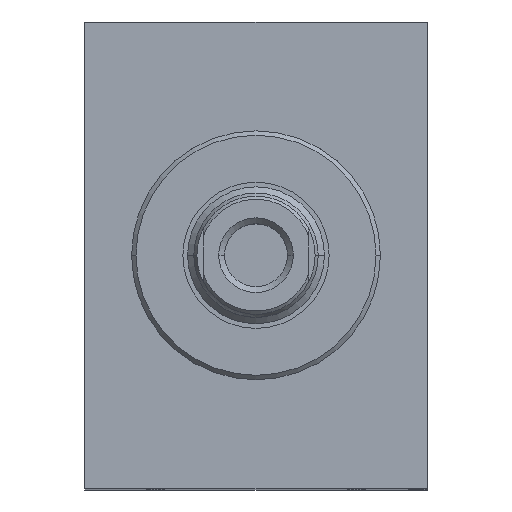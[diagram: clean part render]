
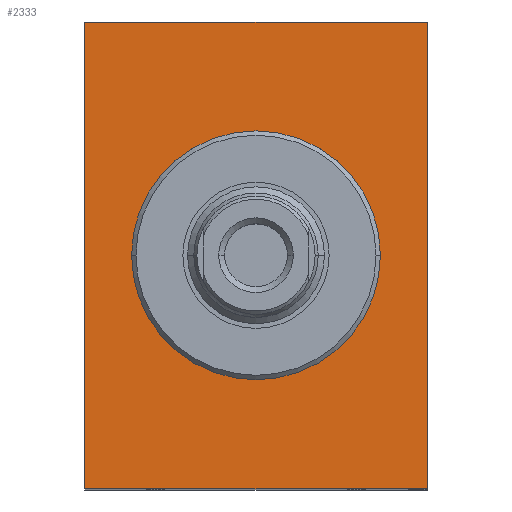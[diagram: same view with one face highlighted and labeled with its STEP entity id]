
A CAD part, top view. The second image highlights one B-rep face of the part: STEP entity #2333.
In plain terms, the highlighted planar face has unit normal (0, 0, 1).
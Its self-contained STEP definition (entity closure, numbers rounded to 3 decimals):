
#95 = CARTESIAN_POINT ( 'NONE',  ( 27.5, -37.5, -10. ) ) ;
#148 = EDGE_CURVE ( 'NONE', #2745, #1274, #2737, .T. ) ;
#155 = CIRCLE ( 'NONE', #3907, 20.001 ) ;
#168 = CARTESIAN_POINT ( 'NONE',  ( -20.001, 0., -10. ) ) ;
#186 = DIRECTION ( 'NONE',  ( 0., 1., 0. ) ) ;
#321 = EDGE_LOOP ( 'NONE', ( #4243, #1755 ) ) ;
#344 = ORIENTED_EDGE ( 'NONE', *, *, #4801, .T. ) ;
#401 = EDGE_CURVE ( 'NONE', #1274, #4254, #1842, .T. ) ;
#522 = CARTESIAN_POINT ( 'NONE',  ( 0., 0., -10. ) ) ;
#976 = CARTESIAN_POINT ( 'NONE',  ( 0., 0., -10. ) ) ;
#1115 = AXIS2_PLACEMENT_3D ( 'NONE', #522, #3623, #3555 ) ;
#1126 = VERTEX_POINT ( 'NONE', #168 ) ;
#1130 = DIRECTION ( 'NONE',  ( 0., -1., 0. ) ) ;
#1137 = EDGE_CURVE ( 'NONE', #3656, #1126, #2609, .T. ) ;
#1150 = DIRECTION ( 'NONE',  ( 0., 0., -1. ) ) ;
#1209 = VERTEX_POINT ( 'NONE', #3253 ) ;
#1274 = VERTEX_POINT ( 'NONE', #2902 ) ;
#1275 = CARTESIAN_POINT ( 'NONE',  ( -27.5, 37.5, -10. ) ) ;
#1285 = LINE ( 'NONE', #95, #3983 ) ;
#1353 = FACE_OUTER_BOUND ( 'NONE', #4731, .T. ) ;
#1437 = EDGE_CURVE ( 'NONE', #1126, #3656, #155, .T. ) ;
#1473 = VECTOR ( 'NONE', #1130, 1000. ) ;
#1733 = DIRECTION ( 'NONE',  ( 1., 0., 0. ) ) ;
#1755 = ORIENTED_EDGE ( 'NONE', *, *, #1137, .T. ) ;
#1820 = CARTESIAN_POINT ( 'NONE',  ( -27.5, -37.5, -10. ) ) ;
#1842 = LINE ( 'NONE', #1820, #2886 ) ;
#1938 = DIRECTION ( 'NONE',  ( -1., 0., 0. ) ) ;
#2250 = ORIENTED_EDGE ( 'NONE', *, *, #148, .T. ) ;
#2333 = ADVANCED_FACE ( 'NONE', ( #3178, #1353 ), #2456, .T. ) ;
#2343 = VECTOR ( 'NONE', #1938, 1000. ) ;
#2456 = PLANE ( 'NONE',  #3744 ) ;
#2609 = CIRCLE ( 'NONE', #1115, 20.001 ) ;
#2634 = CARTESIAN_POINT ( 'NONE',  ( 27.5, -37.5, -10. ) ) ;
#2673 = CARTESIAN_POINT ( 'NONE',  ( 27.5, 37.5, -10. ) ) ;
#2712 = CARTESIAN_POINT ( 'NONE',  ( -27.5, 37.5, -10. ) ) ;
#2737 = LINE ( 'NONE', #2712, #1473 ) ;
#2745 = VERTEX_POINT ( 'NONE', #1275 ) ;
#2775 = ORIENTED_EDGE ( 'NONE', *, *, #3479, .T. ) ;
#2874 = DIRECTION ( 'NONE',  ( 0., 0., 1. ) ) ;
#2886 = VECTOR ( 'NONE', #4821, 1000. ) ;
#2902 = CARTESIAN_POINT ( 'NONE',  ( -27.5, -37.5, -10. ) ) ;
#3178 = FACE_BOUND ( 'NONE', #321, .T. ) ;
#3253 = CARTESIAN_POINT ( 'NONE',  ( 27.5, 37.5, -10. ) ) ;
#3284 = CARTESIAN_POINT ( 'NONE',  ( 20.001, 0., -10. ) ) ;
#3479 = EDGE_CURVE ( 'NONE', #1209, #2745, #4550, .T. ) ;
#3555 = DIRECTION ( 'NONE',  ( -1., 0., 0. ) ) ;
#3623 = DIRECTION ( 'NONE',  ( 0., 0., -1. ) ) ;
#3656 = VERTEX_POINT ( 'NONE', #3284 ) ;
#3744 = AXIS2_PLACEMENT_3D ( 'NONE', #976, #2874, #1733 ) ;
#3907 = AXIS2_PLACEMENT_3D ( 'NONE', #4229, #1150, #4196 ) ;
#3983 = VECTOR ( 'NONE', #186, 1000. ) ;
#4196 = DIRECTION ( 'NONE',  ( -1., 0., 0. ) ) ;
#4229 = CARTESIAN_POINT ( 'NONE',  ( 0., 0., -10. ) ) ;
#4243 = ORIENTED_EDGE ( 'NONE', *, *, #1437, .T. ) ;
#4254 = VERTEX_POINT ( 'NONE', #2634 ) ;
#4340 = ORIENTED_EDGE ( 'NONE', *, *, #401, .T. ) ;
#4550 = LINE ( 'NONE', #2673, #2343 ) ;
#4731 = EDGE_LOOP ( 'NONE', ( #2250, #4340, #344, #2775 ) ) ;
#4801 = EDGE_CURVE ( 'NONE', #4254, #1209, #1285, .T. ) ;
#4821 = DIRECTION ( 'NONE',  ( 1., 0., 0. ) ) ;
